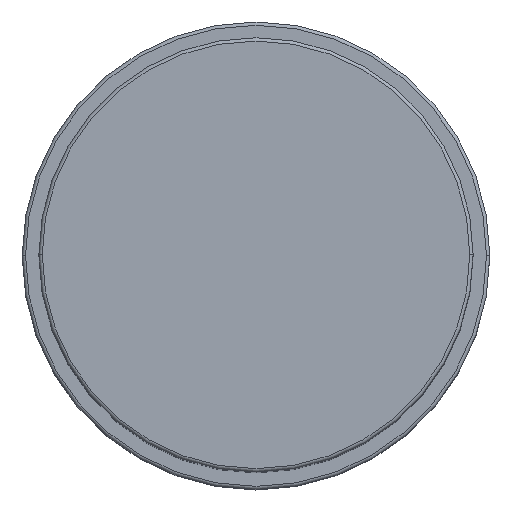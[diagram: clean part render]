
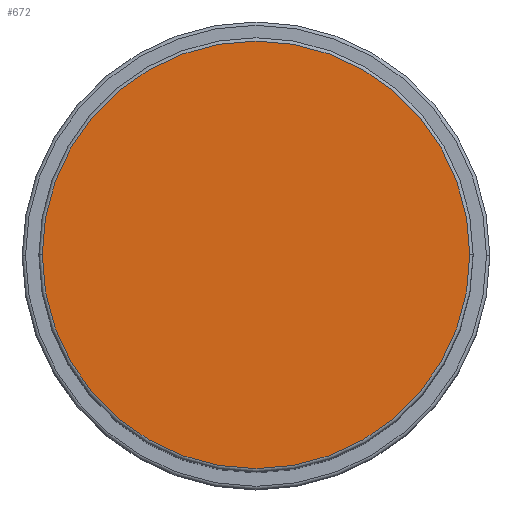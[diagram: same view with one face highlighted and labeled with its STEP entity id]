
A CAD part, top view. The second image highlights one B-rep face of the part: STEP entity #672.
In plain terms, the highlighted planar face has unit normal (0, 0, 1).
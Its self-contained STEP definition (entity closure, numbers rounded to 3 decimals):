
#25 = PLANE ( 'NONE',  #492 ) ;
#62 = DIRECTION ( 'NONE',  ( 0., 0., 1. ) ) ;
#168 = EDGE_CURVE ( 'NONE', #922, #240, #825, .T. ) ;
#240 = VERTEX_POINT ( 'NONE', #1066 ) ;
#258 = CARTESIAN_POINT ( 'NONE',  ( 32., 0., 112. ) ) ;
#485 = DIRECTION ( 'NONE',  ( 1., 0., 0. ) ) ;
#492 = AXIS2_PLACEMENT_3D ( 'NONE', #1691, #993, #1556 ) ;
#672 = ADVANCED_FACE ( 'NONE', ( #863 ), #25, .T. ) ;
#825 = CIRCLE ( 'NONE', #1631, 32. ) ;
#863 = FACE_OUTER_BOUND ( 'NONE', #1079, .T. ) ;
#864 = ORIENTED_EDGE ( 'NONE', *, *, #168, .T. ) ;
#922 = VERTEX_POINT ( 'NONE', #258 ) ;
#993 = DIRECTION ( 'NONE',  ( 0., 0., 1. ) ) ;
#1017 = CARTESIAN_POINT ( 'NONE',  ( 0., 0., 112. ) ) ;
#1034 = DIRECTION ( 'NONE',  ( 1., 0., 0. ) ) ;
#1066 = CARTESIAN_POINT ( 'NONE',  ( -32., 0., 112. ) ) ;
#1079 = EDGE_LOOP ( 'NONE', ( #864, #1496 ) ) ;
#1193 = EDGE_CURVE ( 'NONE', #240, #922, #1254, .T. ) ;
#1207 = CARTESIAN_POINT ( 'NONE',  ( 0., 0., 112. ) ) ;
#1254 = CIRCLE ( 'NONE', #1439, 32. ) ;
#1340 = DIRECTION ( 'NONE',  ( 0., 0., 1. ) ) ;
#1439 = AXIS2_PLACEMENT_3D ( 'NONE', #1017, #62, #1034 ) ;
#1496 = ORIENTED_EDGE ( 'NONE', *, *, #1193, .T. ) ;
#1556 = DIRECTION ( 'NONE',  ( 1., 0., 0. ) ) ;
#1631 = AXIS2_PLACEMENT_3D ( 'NONE', #1207, #1340, #485 ) ;
#1691 = CARTESIAN_POINT ( 'NONE',  ( 0., 0., 112. ) ) ;
